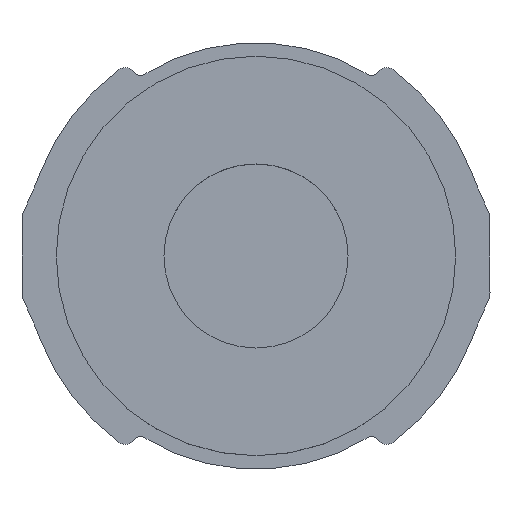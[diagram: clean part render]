
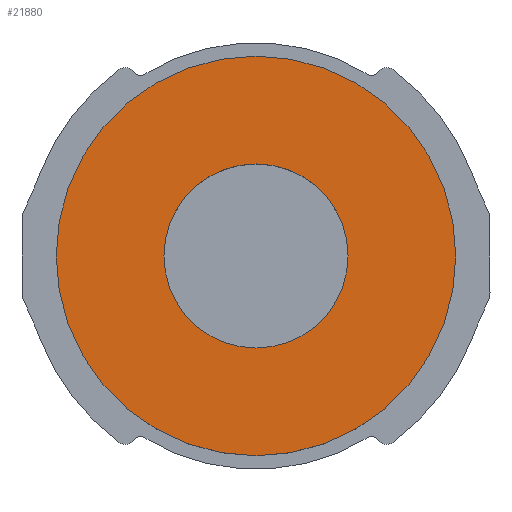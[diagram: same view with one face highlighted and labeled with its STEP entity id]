
A CAD part, top view. The second image highlights one B-rep face of the part: STEP entity #21880.
In plain terms, the highlighted planar face has unit normal (0, 0, 1).
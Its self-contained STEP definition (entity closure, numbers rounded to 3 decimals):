
#12540=CARTESIAN_POINT('',(8.9,0.,15.));
#12550=VERTEX_POINT('',#12540);
#12710=CARTESIAN_POINT('',(-8.9,0.,15.));
#12720=VERTEX_POINT('',#12710);
#12750=CARTESIAN_POINT('',(0.,0.,15.));
#12760=DIRECTION('',(0.,0.,1.));
#12770=DIRECTION('',(1.,0.,0.));
#12780=AXIS2_PLACEMENT_3D('',#12750,#12760,#12770);
#12790=CIRCLE('',#12780,8.9);
#12800=EDGE_CURVE('',#12720,#12550,#12790,.T.);
#21630=CARTESIAN_POINT('',(0.,-9.662,15.));
#21640=DIRECTION('',(0.,0.,1.));
#21650=DIRECTION('',(1.,0.,-0.));
#21660=AXIS2_PLACEMENT_3D('',#21630,#21640,#21650);
#21670=PLANE('',#21660);
#21680=CARTESIAN_POINT('',(0.,0.,15.));
#21690=DIRECTION('',(0.,0.,1.));
#21700=DIRECTION('',(1.,0.,0.));
#21710=AXIS2_PLACEMENT_3D('',#21680,#21690,#21700);
#21720=CIRCLE('',#21710,4.1);
#21730=CARTESIAN_POINT('',(4.1,0.,15.));
#21740=VERTEX_POINT('',#21730);
#21750=CARTESIAN_POINT('',(-4.1,0.,15.));
#21760=VERTEX_POINT('',#21750);
#21770=EDGE_CURVE('',#21740,#21760,#21720,.T.);
#21780=ORIENTED_EDGE('',*,*,#21770,.F.);
#21790=EDGE_CURVE('',#21760,#21740,#21720,.T.);
#21800=ORIENTED_EDGE('',*,*,#21790,.F.);
#21810=EDGE_LOOP('',(#21800,#21780));
#21820=FACE_BOUND('',#21810,.T.);
#21830=EDGE_CURVE('',#12550,#12720,#12790,.T.);
#21840=ORIENTED_EDGE('',*,*,#21830,.T.);
#21850=ORIENTED_EDGE('',*,*,#12800,.T.);
#21860=EDGE_LOOP('',(#21850,#21840));
#21870=FACE_OUTER_BOUND('',#21860,.T.);
#21880=ADVANCED_FACE('',(#21820,#21870),#21670,.T.);
